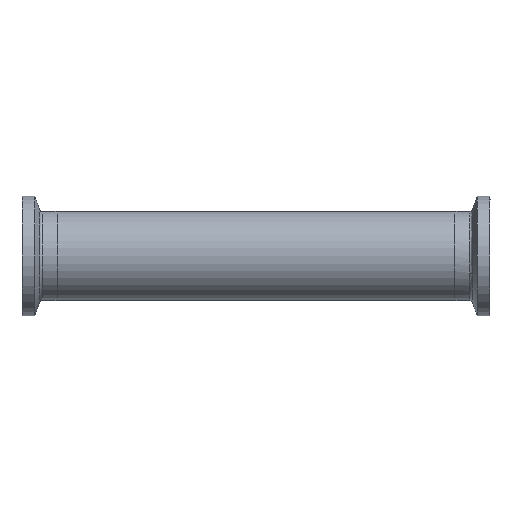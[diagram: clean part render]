
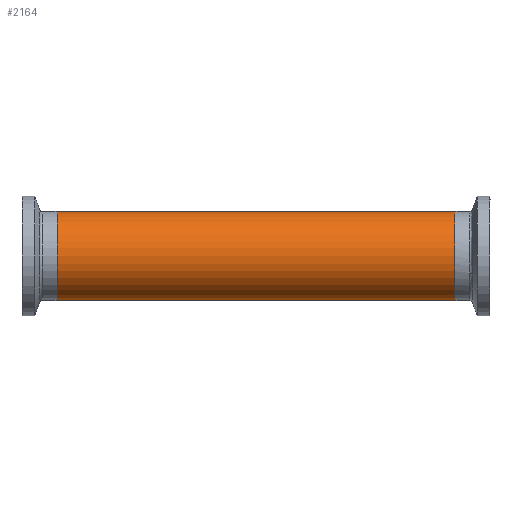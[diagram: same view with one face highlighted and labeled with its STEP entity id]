
A CAD part, front view. The second image highlights one B-rep face of the part: STEP entity #2164.
In plain terms, the highlighted cylindrical face has radius 12.7 mm (diameter 25.4 mm), a partial arc.
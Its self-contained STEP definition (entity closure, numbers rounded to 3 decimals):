
#22 = CARTESIAN_POINT ( 'NONE',  ( 56.7, 0., 12.7 ) ) ;
#91 = VECTOR ( 'NONE', #1449, 1000. ) ;
#119 = CARTESIAN_POINT ( 'NONE',  ( 56.7, 0., -12.7 ) ) ;
#130 = CARTESIAN_POINT ( 'NONE',  ( 92.621, 0., -12.7 ) ) ;
#337 = FACE_OUTER_BOUND ( 'NONE', #2144, .T. ) ;
#437 = CIRCLE ( 'NONE', #661, 12.7 ) ;
#661 = AXIS2_PLACEMENT_3D ( 'NONE', #2701, #2726, #2742 ) ;
#681 = DIRECTION ( 'NONE',  ( -1., 0., 0. ) ) ;
#739 = CARTESIAN_POINT ( 'NONE',  ( 92.621, 0., 0. ) ) ;
#844 = VERTEX_POINT ( 'NONE', #1109 ) ;
#886 = LINE ( 'NONE', #1235, #2042 ) ;
#894 = VERTEX_POINT ( 'NONE', #2014 ) ;
#994 = ORIENTED_EDGE ( 'NONE', *, *, #2669, .T. ) ;
#1000 = EDGE_CURVE ( 'NONE', #844, #894, #437, .T. ) ;
#1067 = EDGE_CURVE ( 'NONE', #1547, #844, #886, .T. ) ;
#1109 = CARTESIAN_POINT ( 'NONE',  ( -56.7, 0., 12.7 ) ) ;
#1212 = ORIENTED_EDGE ( 'NONE', *, *, #2515, .F. ) ;
#1235 = CARTESIAN_POINT ( 'NONE',  ( 92.621, 0., 12.7 ) ) ;
#1246 = DIRECTION ( 'NONE',  ( -1., 0., 0. ) ) ;
#1277 = LINE ( 'NONE', #130, #91 ) ;
#1311 = CYLINDRICAL_SURFACE ( 'NONE', #1937, 12.7 ) ;
#1434 = AXIS2_PLACEMENT_3D ( 'NONE', #1980, #681, #2186 ) ;
#1449 = DIRECTION ( 'NONE',  ( -1., 0., 0. ) ) ;
#1547 = VERTEX_POINT ( 'NONE', #22 ) ;
#1821 = DIRECTION ( 'NONE',  ( 0., 0., 1. ) ) ;
#1856 = ORIENTED_EDGE ( 'NONE', *, *, #1000, .T. ) ;
#1937 = AXIS2_PLACEMENT_3D ( 'NONE', #739, #2756, #1821 ) ;
#1954 = ORIENTED_EDGE ( 'NONE', *, *, #1067, .T. ) ;
#1980 = CARTESIAN_POINT ( 'NONE',  ( 56.7, 0., 0. ) ) ;
#2014 = CARTESIAN_POINT ( 'NONE',  ( -56.7, 0., -12.7 ) ) ;
#2042 = VECTOR ( 'NONE', #1246, 1000. ) ;
#2144 = EDGE_LOOP ( 'NONE', ( #1212, #994, #1954, #1856 ) ) ;
#2164 = ADVANCED_FACE ( 'NONE', ( #337 ), #1311, .T. ) ;
#2186 = DIRECTION ( 'NONE',  ( 0., 0., 1. ) ) ;
#2480 = VERTEX_POINT ( 'NONE', #119 ) ;
#2515 = EDGE_CURVE ( 'NONE', #2480, #894, #1277, .T. ) ;
#2669 = EDGE_CURVE ( 'NONE', #2480, #1547, #2735, .T. ) ;
#2701 = CARTESIAN_POINT ( 'NONE',  ( -56.7, 0., 0. ) ) ;
#2726 = DIRECTION ( 'NONE',  ( 1., 0., 0. ) ) ;
#2735 = CIRCLE ( 'NONE', #1434, 12.7 ) ;
#2742 = DIRECTION ( 'NONE',  ( 0., 0., 1. ) ) ;
#2756 = DIRECTION ( 'NONE',  ( -1., 0., 0. ) ) ;
